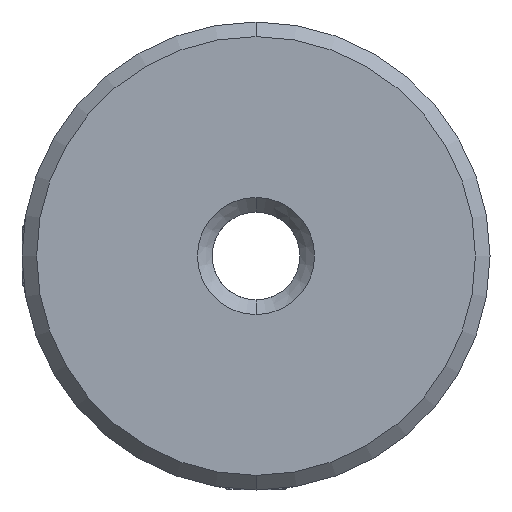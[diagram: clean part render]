
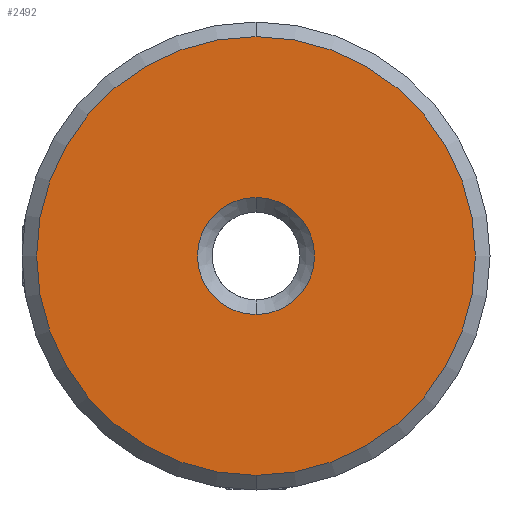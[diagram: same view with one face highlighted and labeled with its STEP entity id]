
A CAD part, front view. The second image highlights one B-rep face of the part: STEP entity #2492.
In plain terms, the highlighted planar face has unit normal (0, -1, 0).
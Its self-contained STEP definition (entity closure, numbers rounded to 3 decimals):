
#5 = VERTEX_POINT ( 'NONE', #2848 ) ;
#50 = FACE_BOUND ( 'NONE', #3298, .T. ) ;
#127 = DIRECTION ( 'NONE',  ( 0., 0., 1. ) ) ;
#290 = CARTESIAN_POINT ( 'NONE',  ( -10.188, -12.277, 0.046 ) ) ;
#315 = CIRCLE ( 'NONE', #2395, 7.5 ) ;
#345 = DIRECTION ( 'NONE',  ( 0., 1., 0. ) ) ;
#351 = AXIS2_PLACEMENT_3D ( 'NONE', #2862, #3457, #1492 ) ;
#381 = CARTESIAN_POINT ( 'NONE',  ( -10.188, -12.277, 0.046 ) ) ;
#488 = AXIS2_PLACEMENT_3D ( 'NONE', #381, #2416, #127 ) ;
#490 = ORIENTED_EDGE ( 'NONE', *, *, #690, .T. ) ;
#690 = EDGE_CURVE ( 'NONE', #5, #2007, #1545, .T. ) ;
#874 = EDGE_CURVE ( 'NONE', #3121, #3318, #1674, .T. ) ;
#1147 = FACE_OUTER_BOUND ( 'NONE', #2134, .T. ) ;
#1288 = DIRECTION ( 'NONE',  ( 0., 0., 1. ) ) ;
#1492 = DIRECTION ( 'NONE',  ( 0., 0., 1. ) ) ;
#1545 = CIRCLE ( 'NONE', #351, 2. ) ;
#1674 = CIRCLE ( 'NONE', #2672, 7.5 ) ;
#1757 = CARTESIAN_POINT ( 'NONE',  ( -10.188, -12.277, 7.546 ) ) ;
#1817 = ORIENTED_EDGE ( 'NONE', *, *, #2178, .T. ) ;
#1876 = CARTESIAN_POINT ( 'NONE',  ( -10.188, -12.277, -7.454 ) ) ;
#1901 = DIRECTION ( 'NONE',  ( 0., 0., 1. ) ) ;
#1945 = EDGE_CURVE ( 'NONE', #2007, #5, #2097, .T. ) ;
#2007 = VERTEX_POINT ( 'NONE', #2149 ) ;
#2064 = ORIENTED_EDGE ( 'NONE', *, *, #874, .T. ) ;
#2097 = CIRCLE ( 'NONE', #488, 2. ) ;
#2110 = DIRECTION ( 'NONE',  ( 0., -1., 0. ) ) ;
#2134 = EDGE_LOOP ( 'NONE', ( #2064, #1817 ) ) ;
#2149 = CARTESIAN_POINT ( 'NONE',  ( -10.188, -12.277, 2.046 ) ) ;
#2178 = EDGE_CURVE ( 'NONE', #3318, #3121, #315, .T. ) ;
#2226 = DIRECTION ( 'NONE',  ( 0., -1., 0. ) ) ;
#2364 = ORIENTED_EDGE ( 'NONE', *, *, #1945, .T. ) ;
#2395 = AXIS2_PLACEMENT_3D ( 'NONE', #2946, #2110, #1288 ) ;
#2416 = DIRECTION ( 'NONE',  ( 0., 1., 0. ) ) ;
#2492 = ADVANCED_FACE ( 'NONE', ( #1147, #50 ), #3113, .F. ) ;
#2672 = AXIS2_PLACEMENT_3D ( 'NONE', #3281, #2226, #1901 ) ;
#2756 = AXIS2_PLACEMENT_3D ( 'NONE', #290, #345, #3404 ) ;
#2848 = CARTESIAN_POINT ( 'NONE',  ( -10.188, -12.277, -1.954 ) ) ;
#2862 = CARTESIAN_POINT ( 'NONE',  ( -10.188, -12.277, 0.046 ) ) ;
#2946 = CARTESIAN_POINT ( 'NONE',  ( -10.188, -12.277, 0.046 ) ) ;
#3113 = PLANE ( 'NONE',  #2756 ) ;
#3121 = VERTEX_POINT ( 'NONE', #1757 ) ;
#3281 = CARTESIAN_POINT ( 'NONE',  ( -10.188, -12.277, 0.046 ) ) ;
#3298 = EDGE_LOOP ( 'NONE', ( #490, #2364 ) ) ;
#3318 = VERTEX_POINT ( 'NONE', #1876 ) ;
#3404 = DIRECTION ( 'NONE',  ( 0., 0., 1. ) ) ;
#3457 = DIRECTION ( 'NONE',  ( 0., 1., 0. ) ) ;
